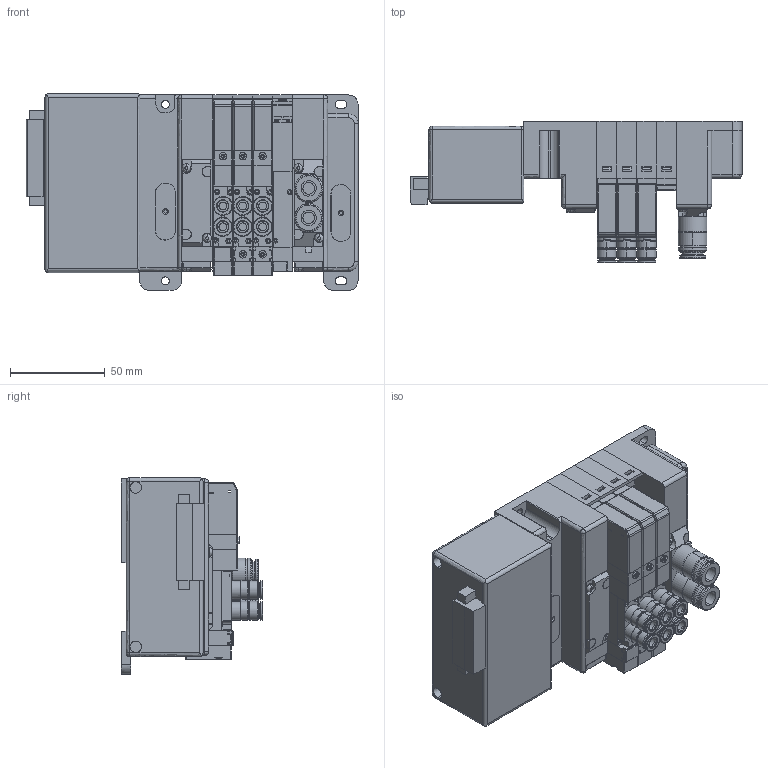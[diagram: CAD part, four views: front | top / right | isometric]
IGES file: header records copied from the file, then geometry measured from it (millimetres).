
Start section: ------------------------------------------------------------------------
Global section: file name: D:\ICADMX\tmp\trans3d_spg\CVICAD02.2536.F10M4XS-JR-B1_15136.igs; native system: spGate; preprocessor: ver12.6.6; author: Unknown; organization: Unknown; date: 200901.145814; units: millimetre
Bounding box: 175 x 74.6 x 103.7 mm (x, y, z)
Volume: 646096.4 mm3; surface area: 157700.4 mm2
Topology: 39 solids, 39 shells, 3221 faces, 8642 edges, 6046 vertices
Faces by surface type: bspline 3221
